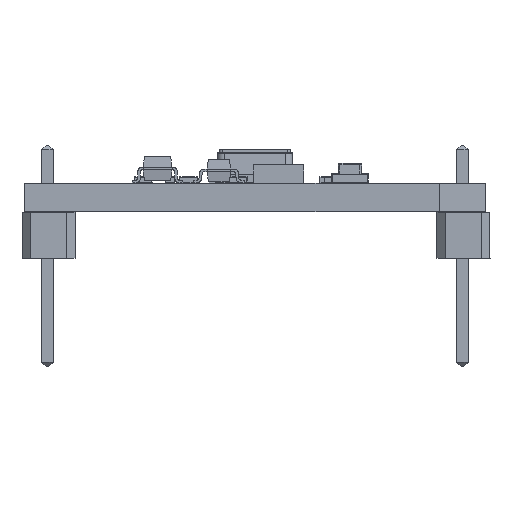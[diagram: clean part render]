
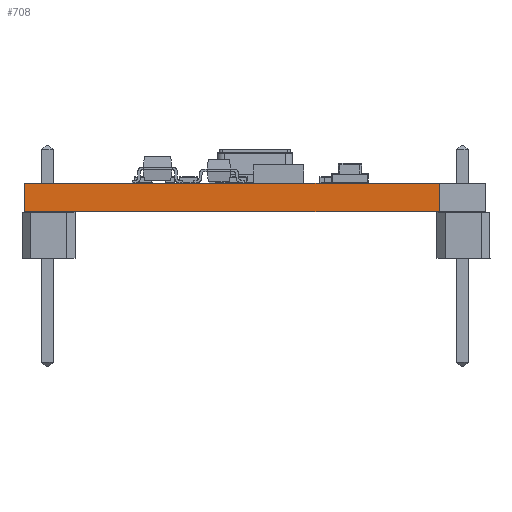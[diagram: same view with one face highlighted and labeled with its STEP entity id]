
A CAD part, front view. The second image highlights one B-rep face of the part: STEP entity #708.
In plain terms, the highlighted planar face has unit normal (0, -1, 0).
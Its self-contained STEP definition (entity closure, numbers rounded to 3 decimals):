
#683 = VERTEX_POINT('',#684);
#684 = CARTESIAN_POINT('',(21.59,-3.81,0.));
#690 = EDGE_CURVE('',#691,#683,#693,.T.);
#691 = VERTEX_POINT('',#692);
#692 = CARTESIAN_POINT('',(21.59,-3.81,-1.59));
#693 = LINE('',#694,#695);
#694 = CARTESIAN_POINT('',(21.59,-3.81,-1.59));
#695 = VECTOR('',#696,1.);
#696 = DIRECTION('',(0.,0.,1.));
#708 = ADVANCED_FACE('',(#709),#734,.T.);
#709 = FACE_BOUND('',#710,.T.);
#710 = EDGE_LOOP('',(#711,#712,#720,#728));
#711 = ORIENTED_EDGE('',*,*,#690,.T.);
#712 = ORIENTED_EDGE('',*,*,#713,.T.);
#713 = EDGE_CURVE('',#683,#714,#716,.T.);
#714 = VERTEX_POINT('',#715);
#715 = CARTESIAN_POINT('',(-1.27,-3.81,0.));
#716 = LINE('',#717,#718);
#717 = CARTESIAN_POINT('',(21.59,-3.81,0.));
#718 = VECTOR('',#719,1.);
#719 = DIRECTION('',(-1.,0.,0.));
#720 = ORIENTED_EDGE('',*,*,#721,.F.);
#721 = EDGE_CURVE('',#722,#714,#724,.T.);
#722 = VERTEX_POINT('',#723);
#723 = CARTESIAN_POINT('',(-1.27,-3.81,-1.59));
#724 = LINE('',#725,#726);
#725 = CARTESIAN_POINT('',(-1.27,-3.81,-1.59));
#726 = VECTOR('',#727,1.);
#727 = DIRECTION('',(0.,0.,1.));
#728 = ORIENTED_EDGE('',*,*,#729,.F.);
#729 = EDGE_CURVE('',#691,#722,#730,.T.);
#730 = LINE('',#731,#732);
#731 = CARTESIAN_POINT('',(21.59,-3.81,-1.59));
#732 = VECTOR('',#733,1.);
#733 = DIRECTION('',(-1.,0.,0.));
#734 = PLANE('',#735);
#735 = AXIS2_PLACEMENT_3D('',#736,#737,#738);
#736 = CARTESIAN_POINT('',(21.59,-3.81,-1.59));
#737 = DIRECTION('',(0.,-1.,0.));
#738 = DIRECTION('',(-1.,0.,0.));
